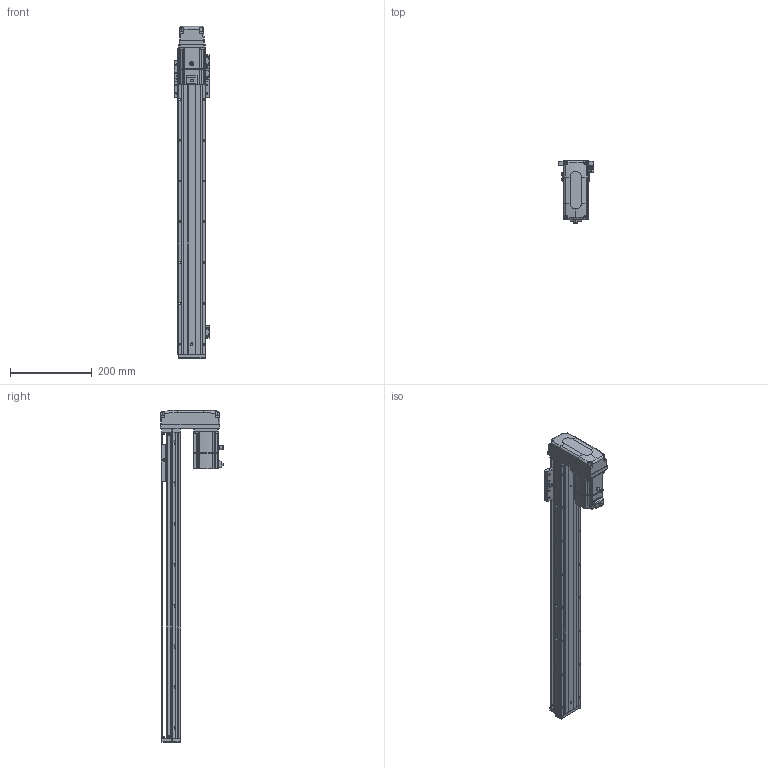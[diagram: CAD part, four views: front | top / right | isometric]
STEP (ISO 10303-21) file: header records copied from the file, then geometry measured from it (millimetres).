
FILE_DESCRIPTION (( 'STEP AP203' ), '1' );
FILE_NAME ('KTHAL60-600-BM-M20-C4L.step', '2022-12-16T02:11:07', ( '微软用户' ), ( '微软中国' ), 'SwSTEP 2.0', 'SolidWorks 2020', '' );
FILE_SCHEMA (( 'CONFIG_CONTROL_DESIGN' ));
Length unit declared in the file: millimetre
Products named in the file (17): GTH80-026; KTHA60-001_750; CTHA60-017; KTHAL60-600-BM-M20-C4L; KTHLA60-002; CTHA60-021; GBT77-2000M3-3; KTHA60-004; GBT 70.1-M4×16; GBT 70.1-M3℅6; KTHA60-005; CTHA60-016; GB¨uT 70.2-M3¡Á5_M3¡Á6; _X2_4E0983F1_X0_200W_1; GBT 70.3-M3℅6; CTHA60-015-4_CTHA60-015-4; EE_SX911P_R
Assembly tree (45 placements, depth 2):
  KTHAL60-600-BM-M20-C4L
    KTHA60-001_750
    KTHLA60-002
    KTHA60-004
    KTHA60-005
    GB¨uT 70.2-M3¡Á5_M3¡Á6  x5
    GBT 70.3-M3℅6  x4
    EE_SX911P_R  x3
    CTHA60-017  x3
    CTHA60-021  x2
    GBT 70.1-M4×16  x8
    GBT77-2000M3-3  x6
    GBT 70.1-M3℅6  x6
    CTHA60-016
    _X2_4E0983F1_X0_200W_1
    CTHA60-015-4_CTHA60-015-4
    GTH80-026
Bounding box: 87.82 x 155.2 x 814 mm (x, y, z)
Volume: 2087346.7 mm3; surface area: 452151.2 mm2
Topology: 48 solids, 48 shells, 2371 faces, 5660 edges, 3481 vertices
Faces by surface type: plane 1271, cylinder 629, cone 272, bspline 103, torus 82, sphere 14
Entity records: 46539 total; most frequent: CARTESIAN_POINT 10378, DIRECTION 7031, ORIENTED_EDGE 6944, EDGE_CURVE 3472, AXIS2_PLACEMENT_3D 2418, LINE 2195, VECTOR 2195, VERTEX_POINT 2165
